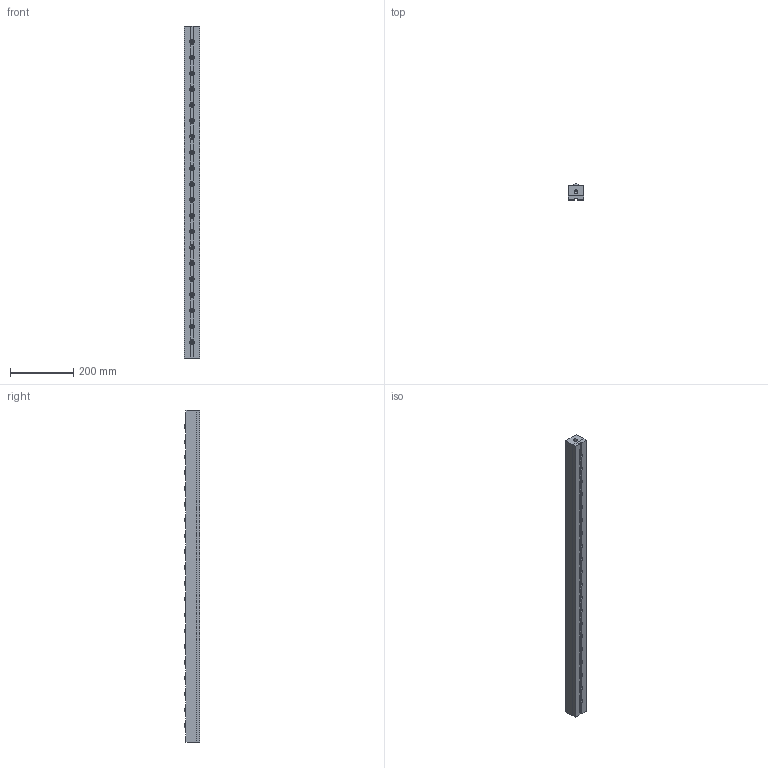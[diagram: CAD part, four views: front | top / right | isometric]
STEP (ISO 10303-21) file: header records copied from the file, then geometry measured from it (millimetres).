
FILE_DESCRIPTION (( 'STEP AP203' ), '1' );
FILE_NAME ('PVL55SH-20.STEP', '2016-01-25T01:25:32', ( '' ), ( '' ), 'SwSTEP 2.0', 'SolidWorks 2013', '' );
FILE_SCHEMA (( 'CONFIG_CONTROL_DESIGN' ));
Length unit declared in the file: millimetre
Products named in the file (1): PVL55SH-20
Bounding box: 49 x 50 x 1050 mm (x, y, z)
Volume: 2226247.9 mm3; surface area: 358809.5 mm2
Topology: 2 solids, 2 shells, 863 faces, 1860 edges, 1245 vertices
Faces by surface type: cylinder 498, plane 321, sphere 40, cone 4
Entity records: 24155 total; most frequent: DIRECTION 4746, CARTESIAN_POINT 3967, ORIENTED_EDGE 3716, AXIS2_PLACEMENT_3D 2024, EDGE_CURVE 1858, VERTEX_POINT 1245, CIRCLE 1160, EDGE_LOOP 1117
